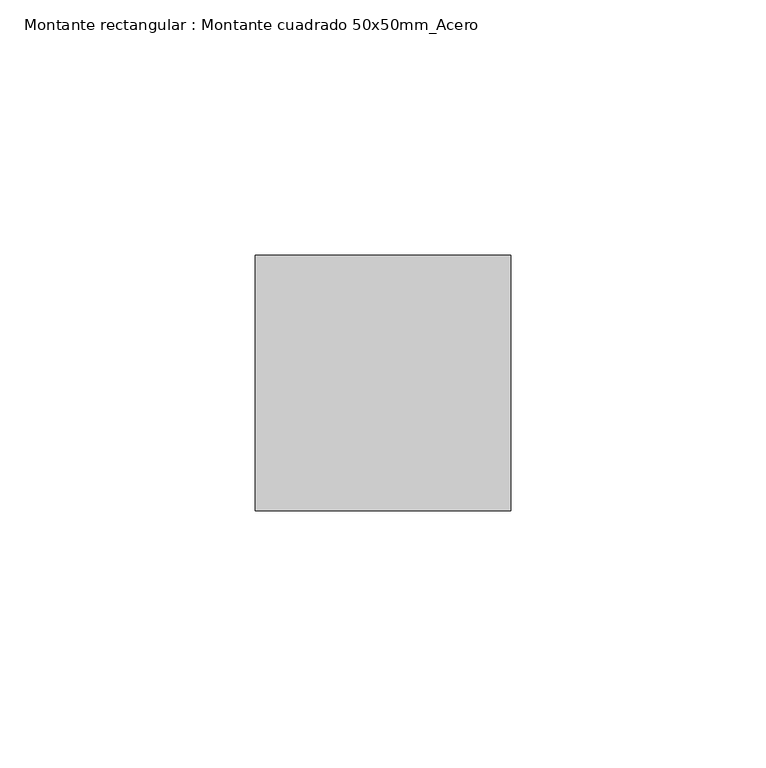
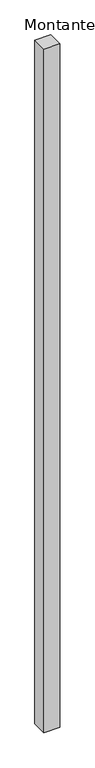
"""IFC4 building model written with IfcOpenShell, lengths in millimetres: member geometry, Montante rectangular : Montante cuadrado 50x50mm_Acero."""

from ifc_helpers import new_model, si_unit, frame, origin, place, context, project, spatial, polyline, outline, extrude, source, transform, mapped, element, save


def montante_rectangular_montante_cuadrado_50x50mm_acero_ee5e875f(model_context):
    return source(origin(), model_context, "Body", "SweptSolid", [
        extrude(outline(polyline([(0.0, 0.0), (50.0, 0.0), (50.0, -50.0), (0.0, -50.0), (0.0, 0.0)])), frame((0.0, 0.0, -2300.0), z_axis=(0.0, 0.0, 1.0), x_axis=(1.0, 0.0, 0.0)), (0.0, 0.0, 1.0), 2300.0),
    ])


if __name__ == "__main__":
    model = new_model("IFC4")
    model_context = context("Model", 3, world=origin())
    ifc_project = project(units=[si_unit("LENGTHUNIT", "METRE", prefix="MILLI")], contexts=[model_context])
    site = spatial("IfcSite", under=ifc_project)
    building = spatial("IfcBuilding", under=site)
    placement = place(None, origin())
    montante_rectangular_montante_cuadrado_50x50mm_acero_shape = montante_rectangular_montante_cuadrado_50x50mm_acero_ee5e875f(model_context)
    element("IfcMember", 1, ObjectType="Montante rectangular : Montante cuadrado 50x50mm_Acero", at=placement, inside=building, context=model_context, shape_type="MappedRepresentation", body=[
        mapped(montante_rectangular_montante_cuadrado_50x50mm_acero_shape, transform((0.0, 0.0, 0.0), x_axis=(1.0, 0.0, 0.0), y_axis=(0.0, 1.0, 0.0), z_axis=(0.0, 0.0, 1.0))),
    ])
    save(model, "model.ifc")
